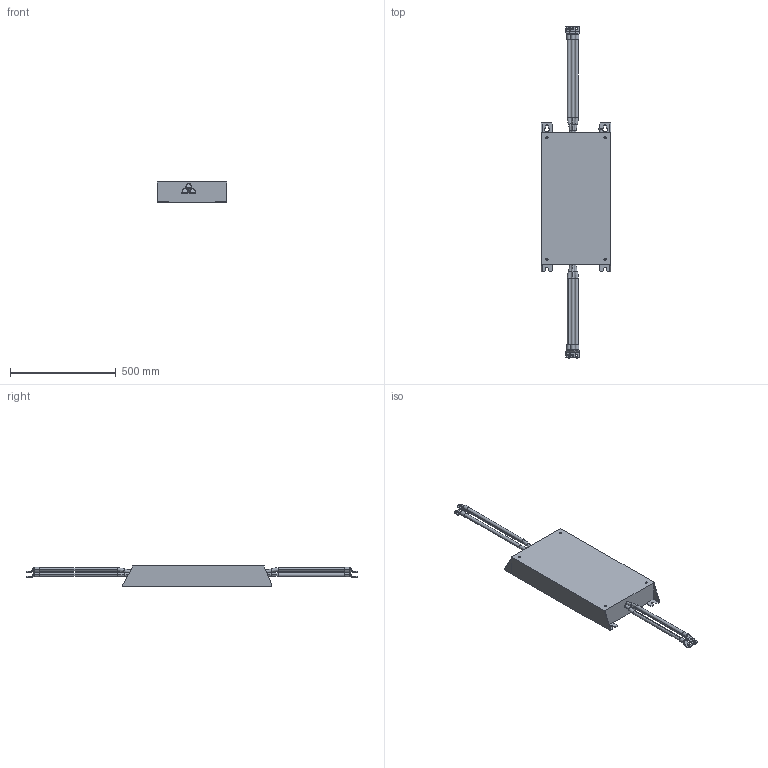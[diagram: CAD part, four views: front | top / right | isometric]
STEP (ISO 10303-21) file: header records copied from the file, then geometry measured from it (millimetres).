
FILE_DESCRIPTION (( 'STEP AP214' ), '1' );
FILE_NAME ('00E6X00-0027.STEP', '2023-07-12T08:17:35', ( '' ), ( '' ), 'SwSTEP 2.0', 'SolidWorks 2022', '' );
FILE_SCHEMA (( 'AUTOMOTIVE_DESIGN' ));
Length unit declared in the file: millimetre
Products named in the file (1): 00E6X00-0027
Bounding box: 330 x 1571.8 x 98 mm (x, y, z)
Volume: 20882076.1 mm3; surface area: 786472.8 mm2
Topology: 1 solids, 1 shells, 327 faces, 833 edges, 532 vertices
Faces by surface type: plane 125, cylinder 115, bspline 61, torus 26
Entity records: 13496 total; most frequent: CARTESIAN_POINT 5784, ORIENTED_EDGE 1666, DIRECTION 1345, EDGE_CURVE 833, VERTEX_POINT 532, AXIS2_PLACEMENT_3D 491, EDGE_LOOP 367, VECTOR 363
